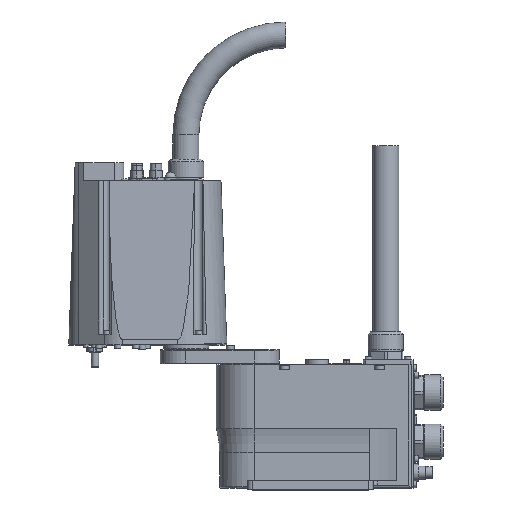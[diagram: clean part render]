
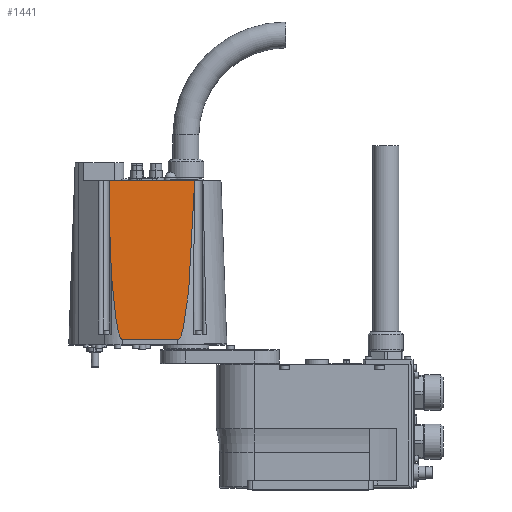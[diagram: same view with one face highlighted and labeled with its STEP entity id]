
A CAD part, top view. The second image highlights one B-rep face of the part: STEP entity #1441.
In plain terms, the highlighted planar face has unit normal (0, 0.035, 0.999).
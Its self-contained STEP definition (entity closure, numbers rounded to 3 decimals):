
#1441 = ADVANCED_FACE( '', ( #4383 ), #4384, .F. );
#4383 = FACE_OUTER_BOUND( '', #7641, .T. );
#4384 = PLANE( '', #7642 );
#7641 = EDGE_LOOP( '', ( #17663, #17664, #17665, #17666, #17667, #17668 ) );
#7642 = AXIS2_PLACEMENT_3D( '', #17669, #17670, #17671 );
#17663 = ORIENTED_EDGE( '', *, *, #22752, .T. );
#17664 = ORIENTED_EDGE( '', *, *, #22753, .T. );
#17665 = ORIENTED_EDGE( '', *, *, #22760, .F. );
#17666 = ORIENTED_EDGE( '', *, *, #22761, .F. );
#17667 = ORIENTED_EDGE( '', *, *, #22723, .F. );
#17668 = ORIENTED_EDGE( '', *, *, #22707, .T. );
#17669 = CARTESIAN_POINT( '', ( 33.8, 157.5, 54.21 ) );
#17670 = DIRECTION( '', ( 0., -0.035, -0.999 ) );
#17671 = DIRECTION( '', ( 0., -0.999, 0.035 ) );
#22707 = EDGE_CURVE( '', #28221, #28219, #28222, .T. );
#22723 = EDGE_CURVE( '', #28221, #28246, #28247, .T. );
#22752 = EDGE_CURVE( '', #28219, #28288, #28290, .T. );
#22753 = EDGE_CURVE( '', #28288, #28291, #28292, .T. );
#22760 = EDGE_CURVE( '', #28302, #28291, #28303, .T. );
#22761 = EDGE_CURVE( '', #28246, #28302, #28304, .T. );
#28219 = VERTEX_POINT( '', #36084 );
#28221 = VERTEX_POINT( '', #36086 );
#28222 = LINE( '', #36087, #36088 );
#28246 = VERTEX_POINT( '', #36173 );
#28247 = ELLIPSE( '', #36174, 1548.243, 54. );
#28288 = VERTEX_POINT( '', #36231 );
#28290 = ELLIPSE( '', #36234, 85.961, 3. );
#28291 = VERTEX_POINT( '', #36235 );
#28292 = LINE( '', #36236, #36237 );
#28302 = VERTEX_POINT( '', #36252 );
#28303 = ELLIPSE( '', #36253, 859.611, 30. );
#28304 = LINE( '', #36254, #36255 );
#36084 = CARTESIAN_POINT( '', ( -158.939, 338.3, 47.896 ) );
#36086 = CARTESIAN_POINT( '', ( -65.359, 338.3, 47.896 ) );
#36087 = CARTESIAN_POINT( '', ( -70.6, 338.3, 47.896 ) );
#36088 = VECTOR( '', #42772, 1. );
#36173 = CARTESIAN_POINT( '', ( -84.21, 163.5, 54. ) );
#36174 = AXIS2_PLACEMENT_3D( '', #42806, #42807, #42808 );
#36231 = CARTESIAN_POINT( '', ( -157.1, 241.074, 51.291 ) );
#36234 = AXIS2_PLACEMENT_3D( '', #42859, #42860, #42861 );
#36235 = CARTESIAN_POINT( '', ( -157.1, 235.221, 51.495 ) );
#36236 = CARTESIAN_POINT( '', ( -157.1, 163.544, 53.998 ) );
#36237 = VECTOR( '', #42862, 1. );
#36252 = CARTESIAN_POINT( '', ( -145.1, 163.5, 54. ) );
#36253 = AXIS2_PLACEMENT_3D( '', #42871, #42872, #42873 );
#36254 = CARTESIAN_POINT( '', ( -25.1, 163.5, 54. ) );
#36255 = VECTOR( '', #42874, 1. );
#42772 = DIRECTION( '', ( -1., 0., 0. ) );
#42806 = CARTESIAN_POINT( '', ( -138.21, 1709.858, 0. ) );
#42807 = DIRECTION( '', ( 0., -0.035, -0.999 ) );
#42808 = DIRECTION( '', ( 0.035, -0.999, 0.035 ) );
#42859 = CARTESIAN_POINT( '', ( -156., 320.999, 48.5 ) );
#42860 = DIRECTION( '', ( 0., 0.035, 0.999 ) );
#42861 = DIRECTION( '', ( 0., -0.999, 0.035 ) );
#42862 = DIRECTION( '', ( 0., -0.999, 0.035 ) );
#42871 = CARTESIAN_POINT( '', ( -145.1, 1022.588, 24. ) );
#42872 = DIRECTION( '', ( 0., -0.035, -0.999 ) );
#42873 = DIRECTION( '', ( 0., -0.999, 0.035 ) );
#42874 = DIRECTION( '', ( -1., 0., 0. ) );
